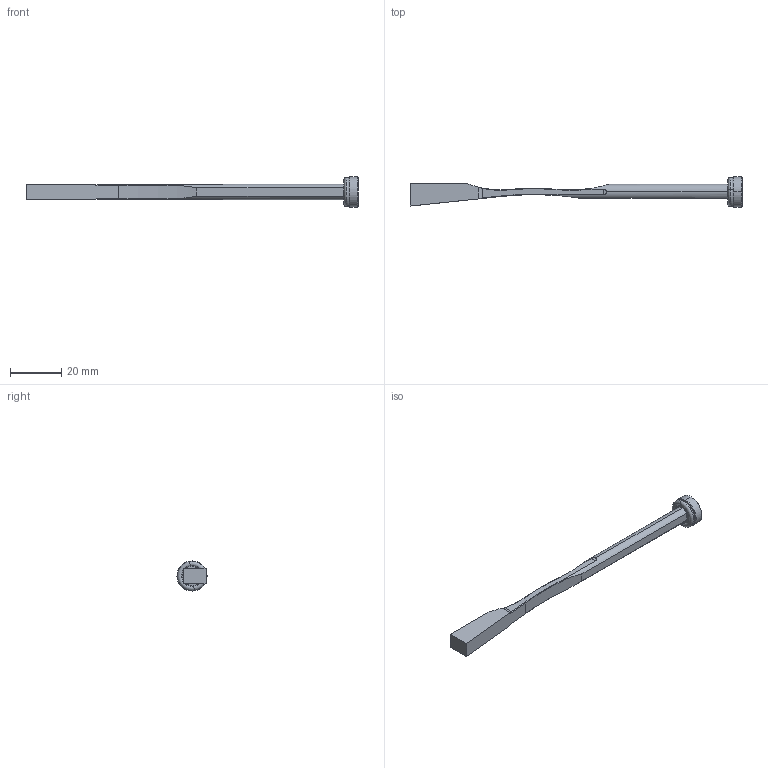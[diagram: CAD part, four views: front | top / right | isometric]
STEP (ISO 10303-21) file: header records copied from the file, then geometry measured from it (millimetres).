
FILE_DESCRIPTION (( 'STEP AP214' ), '1' );
FILE_NAME ('PW060622 Tancada.STEP', '2020-02-10T08:28:57', ( '' ), ( '' ), 'SwSTEP 2.0', 'SolidWorks 2018', '' );
FILE_SCHEMA (( 'AUTOMOTIVE_DESIGN' ));
Length unit declared in the file: millimetre
Products named in the file (5): PW060622 Tancada; 9PW060622 TANCADA; 1DIN7991416_DIN 7991 - M4 x 16 --- 16C; 3JT7.5X2X11.5; 9FP1205M4
Assembly tree (4 placements, depth 2):
  PW060622 Tancada
    9PW060622 TANCADA
    9FP1205M4
    1DIN7991416_DIN 7991 - M4 x 16 --- 16C
    3JT7.5X2X11.5
Bounding box: 130 x 11.8 x 11.8 mm (x, y, z)
Volume: 3686.7 mm3; surface area: 3851.2 mm2
Topology: 4 solids, 4 shells, 89 faces, 202 edges, 118 vertices
Faces by surface type: plane 28, cylinder 23, cone 18, torus 14, bspline 6
Entity records: 2844 total; most frequent: CARTESIAN_POINT 609, DIRECTION 426, ORIENTED_EDGE 396, EDGE_CURVE 198, AXIS2_PLACEMENT_3D 171, VERTEX_POINT 118, EDGE_LOOP 94, FACE_OUTER_BOUND 89
